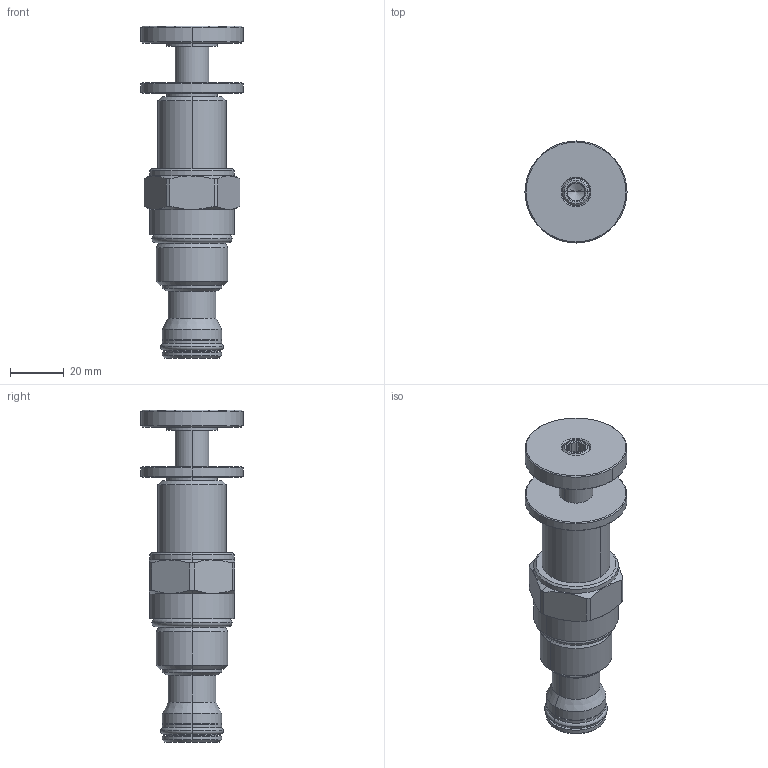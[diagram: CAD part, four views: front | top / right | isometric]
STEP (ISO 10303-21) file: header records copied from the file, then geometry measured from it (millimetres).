
FILE_DESCRIPTION((''),'2;1');
FILE_NAME('RV12-2XB','2014-04-10T',('mg1'),(''),'PRO/ENGINEER BY PARAMETRIC TECHNOLOGY CORPORATION, 2013230','PRO/ENGINEER BY PARAMETRIC TECHNOLOGY CORPORATION, 2013230','');
FILE_SCHEMA(('CONFIG_CONTROL_DESIGN'));
Length unit declared in the file: millimetre
Products named in the file (1): RV12-2XB
Bounding box: 38.1 x 38.1 x 124.01 mm (x, y, z)
Volume: 67057.1 mm3; surface area: 16989.3 mm2
Topology: 1 solids, 1 shells, 148 faces, 332 edges, 199 vertices
Faces by surface type: cylinder 58, cone 40, plane 34, torus 16
Entity records: 4272 total; most frequent: CARTESIAN_POINT 857, DIRECTION 776, ORIENTED_EDGE 660, EDGE_CURVE 330, AXIS2_PLACEMENT_3D 324, VERTEX_POINT 199, CIRCLE 176, EDGE_LOOP 163
